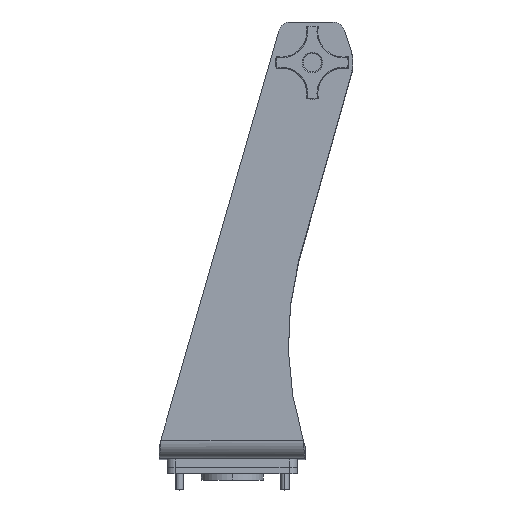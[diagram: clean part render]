
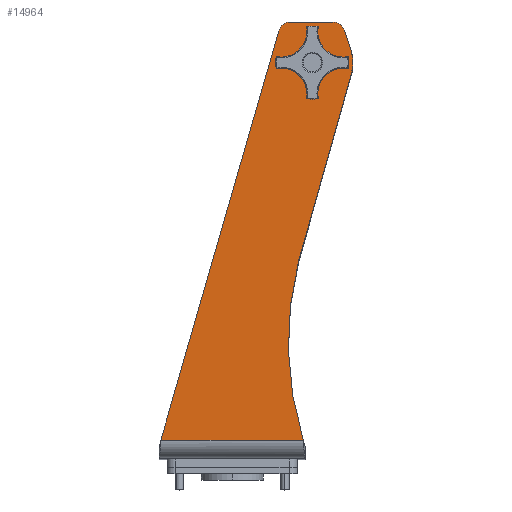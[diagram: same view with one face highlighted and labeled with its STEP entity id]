
A CAD part, top view. The second image highlights one B-rep face of the part: STEP entity #14964.
In plain terms, the highlighted planar face has unit normal (0, 0, 1) as drawn and (1, 0, 0) by its records, which use the part's own axes.
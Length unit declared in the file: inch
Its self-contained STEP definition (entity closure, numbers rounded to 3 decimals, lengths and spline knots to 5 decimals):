
#160 = CARTESIAN_POINT ( 'NONE',  ( 11.25, 12.176, -2.46533 ) ) ;
#846 = AXIS2_PLACEMENT_3D ( 'NONE', #9945, #9865, #10029 ) ;
#1115 = CIRCLE ( 'NONE', #846, 0.37474 ) ;
#1186 = EDGE_CURVE ( 'NONE', #19160, #24106, #1115, .T. ) ;
#1362 = VECTOR ( 'NONE', #5266, 39.37008 ) ;
#1543 = DIRECTION ( 'NONE',  ( 0., 0.951, 0.31 ) ) ;
#1615 = AXIS2_PLACEMENT_3D ( 'NONE', #160, #13207, #2021 ) ;
#1642 = EDGE_CURVE ( 'NONE', #19018, #7011, #15721, .T. ) ;
#1812 = AXIS2_PLACEMENT_3D ( 'NONE', #14081, #2882, #15966 ) ;
#1823 = CARTESIAN_POINT ( 'NONE',  ( 11.25, 3.56814, -11.72649 ) ) ;
#2021 = DIRECTION ( 'NONE',  ( 0., 1., 0. ) ) ;
#2499 = AXIS2_PLACEMENT_3D ( 'NONE', #1823, #14878, #3679 ) ;
#2750 = VERTEX_POINT ( 'NONE', #21129 ) ;
#2838 = ORIENTED_EDGE ( 'NONE', *, *, #6451, .F. ) ;
#2882 = DIRECTION ( 'NONE',  ( 1., 0., 0. ) ) ;
#3383 = CARTESIAN_POINT ( 'NONE',  ( 11.25, 6.27799, -2.10292 ) ) ;
#3679 = DIRECTION ( 'NONE',  ( 0., 1., 0. ) ) ;
#4417 = LINE ( 'NONE', #8205, #13771 ) ;
#4423 = CARTESIAN_POINT ( 'NONE',  ( 11.25, 13.15965, -3.45894 ) ) ;
#4478 = VERTEX_POINT ( 'NONE', #9793 ) ;
#5244 = DIRECTION ( 'NONE',  ( 1., 0., 0. ) ) ;
#5266 = DIRECTION ( 'NONE',  ( 0., 0.963, -0.271 ) ) ;
#5484 = DIRECTION ( 'NONE',  ( -1., 0., 0. ) ) ;
#5704 = CARTESIAN_POINT ( 'NONE',  ( 11.25, 13.426, -11.72649 ) ) ;
#5993 = VECTOR ( 'NONE', #23813, 39.37008 ) ;
#6072 = CARTESIAN_POINT ( 'NONE',  ( 11.25, 13.05126, -1.79451 ) ) ;
#6327 = LINE ( 'NONE', #3383, #1362 ) ;
#6451 = EDGE_CURVE ( 'NONE', #7011, #19018, #10198, .T. ) ;
#7000 = VECTOR ( 'NONE', #1543, 39.37008 ) ;
#7011 = VERTEX_POINT ( 'NONE', #21274 ) ;
#7309 = AXIS2_PLACEMENT_3D ( 'NONE', #16688, #5484, #18574 ) ;
#7505 = CARTESIAN_POINT ( 'NONE',  ( 11.25, 11.81447, -3.6619 ) ) ;
#7952 = DIRECTION ( 'NONE',  ( 0., 1., 0. ) ) ;
#8205 = CARTESIAN_POINT ( 'NONE',  ( 11.25, 7.04347, 0.32736 ) ) ;
#8323 = EDGE_CURVE ( 'NONE', #2750, #22939, #6327, .T. ) ;
#8869 = ORIENTED_EDGE ( 'NONE', *, *, #23768, .T. ) ;
#8935 = CARTESIAN_POINT ( 'NONE',  ( 11.25, 0.563, -2.18872 ) ) ;
#9057 = CARTESIAN_POINT ( 'NONE',  ( 11.25, 13.426, -3.10022 ) ) ;
#9085 = EDGE_CURVE ( 'NONE', #11511, #2750, #14478, .T. ) ;
#9728 = ORIENTED_EDGE ( 'NONE', *, *, #1186, .T. ) ;
#9793 = CARTESIAN_POINT ( 'NONE',  ( 11.25, 13.14147, -1.43079 ) ) ;
#9865 = DIRECTION ( 'NONE',  ( 1., 0., 0. ) ) ;
#9945 = CARTESIAN_POINT ( 'NONE',  ( 11.25, 13.05126, -3.10022 ) ) ;
#10029 = DIRECTION ( 'NONE',  ( 0., 1., 0. ) ) ;
#10198 = CIRCLE ( 'NONE', #1812, 0.1955 ) ;
#10315 = AXIS2_PLACEMENT_3D ( 'NONE', #16445, #5244, #18338 ) ;
#11205 = CARTESIAN_POINT ( 'NONE',  ( 11.25, 11.9805, -2.46533 ) ) ;
#11511 = VERTEX_POINT ( 'NONE', #8935 ) ;
#11925 = EDGE_CURVE ( 'NONE', #22939, #18571, #22896, .T. ) ;
#11952 = LINE ( 'NONE', #14603, #7000 ) ;
#13207 = DIRECTION ( 'NONE',  ( 1., 0., 0. ) ) ;
#13215 = LINE ( 'NONE', #5704, #23181 ) ;
#13244 = AXIS2_PLACEMENT_3D ( 'NONE', #6072, #19152, #7952 ) ;
#13771 = VECTOR ( 'NONE', #19493, 39.37008 ) ;
#13921 = ORIENTED_EDGE ( 'NONE', *, *, #19948, .T. ) ;
#14081 = CARTESIAN_POINT ( 'NONE',  ( 11.25, 12.176, -2.46533 ) ) ;
#14478 = CIRCLE ( 'NONE', #7309, 10. ) ;
#14603 = CARTESIAN_POINT ( 'NONE',  ( 11.25, 2.05303, -7.08248 ) ) ;
#14621 = EDGE_CURVE ( 'NONE', #4478, #22349, #4417, .T. ) ;
#14794 = PLANE ( 'NONE',  #2499 ) ;
#14878 = DIRECTION ( 'NONE',  ( 1., 0., 0. ) ) ;
#14964 = ADVANCED_FACE ( 'NONE', ( #20231, #15830 ), #14794, .T. ) ;
#15574 = EDGE_CURVE ( 'NONE', #18571, #19160, #11952, .T. ) ;
#15721 = CIRCLE ( 'NONE', #1615, 0.1955 ) ;
#15830 = FACE_OUTER_BOUND ( 'NONE', #20543, .T. ) ;
#15966 = DIRECTION ( 'NONE',  ( 0., 1., 0. ) ) ;
#16364 = CARTESIAN_POINT ( 'NONE',  ( 11.25, 0.563, 2.1958 ) ) ;
#16445 = CARTESIAN_POINT ( 'NONE',  ( 11.25, 12.176, -2.46533 ) ) ;
#16688 = CARTESIAN_POINT ( 'NONE',  ( 11.25, 3.56814, -11.72649 ) ) ;
#16730 = CARTESIAN_POINT ( 'NONE',  ( 11.25, 13.426, -1.79451 ) ) ;
#17292 = ORIENTED_EDGE ( 'NONE', *, *, #11925, .T. ) ;
#18181 = ORIENTED_EDGE ( 'NONE', *, *, #9085, .T. ) ;
#18338 = DIRECTION ( 'NONE',  ( 0., 1., 0. ) ) ;
#18571 = VERTEX_POINT ( 'NONE', #19970 ) ;
#18574 = DIRECTION ( 'NONE',  ( 0., 1., 0. ) ) ;
#18796 = DIRECTION ( 'NONE',  ( 0., 0., 1. ) ) ;
#19018 = VERTEX_POINT ( 'NONE', #11205 ) ;
#19152 = DIRECTION ( 'NONE',  ( 1., 0., 0. ) ) ;
#19160 = VERTEX_POINT ( 'NONE', #4423 ) ;
#19493 = DIRECTION ( 'NONE',  ( 0., -0.961, 0.277 ) ) ;
#19514 = ORIENTED_EDGE ( 'NONE', *, *, #15574, .T. ) ;
#19753 = VERTEX_POINT ( 'NONE', #16730 ) ;
#19948 = EDGE_CURVE ( 'NONE', #22349, #11511, #20937, .T. ) ;
#19970 = CARTESIAN_POINT ( 'NONE',  ( 11.25, 12.53753, -3.6619 ) ) ;
#20096 = ORIENTED_EDGE ( 'NONE', *, *, #21440, .T. ) ;
#20164 = ORIENTED_EDGE ( 'NONE', *, *, #1642, .F. ) ;
#20231 = FACE_BOUND ( 'NONE', #22435, .T. ) ;
#20543 = EDGE_LOOP ( 'NONE', ( #22934, #13921, #18181, #23895, #17292, #19514, #9728, #20096, #8869 ) ) ;
#20937 = LINE ( 'NONE', #21957, #5993 ) ;
#21129 = CARTESIAN_POINT ( 'NONE',  ( 11.25, 6.07712, -2.04636 ) ) ;
#21274 = CARTESIAN_POINT ( 'NONE',  ( 11.25, 12.3715, -2.46533 ) ) ;
#21440 = EDGE_CURVE ( 'NONE', #24106, #19753, #13215, .T. ) ;
#21663 = CIRCLE ( 'NONE', #13244, 0.37474 ) ;
#21957 = CARTESIAN_POINT ( 'NONE',  ( 11.25, 0.563, -11.72649 ) ) ;
#22349 = VERTEX_POINT ( 'NONE', #16364 ) ;
#22435 = EDGE_LOOP ( 'NONE', ( #2838, #20164 ) ) ;
#22896 = CIRCLE ( 'NONE', #10315, 1.25 ) ;
#22934 = ORIENTED_EDGE ( 'NONE', *, *, #14621, .T. ) ;
#22939 = VERTEX_POINT ( 'NONE', #7505 ) ;
#23181 = VECTOR ( 'NONE', #18796, 39.37008 ) ;
#23768 = EDGE_CURVE ( 'NONE', #19753, #4478, #21663, .T. ) ;
#23813 = DIRECTION ( 'NONE',  ( 0., 0., -1. ) ) ;
#23895 = ORIENTED_EDGE ( 'NONE', *, *, #8323, .T. ) ;
#24106 = VERTEX_POINT ( 'NONE', #9057 ) ;
